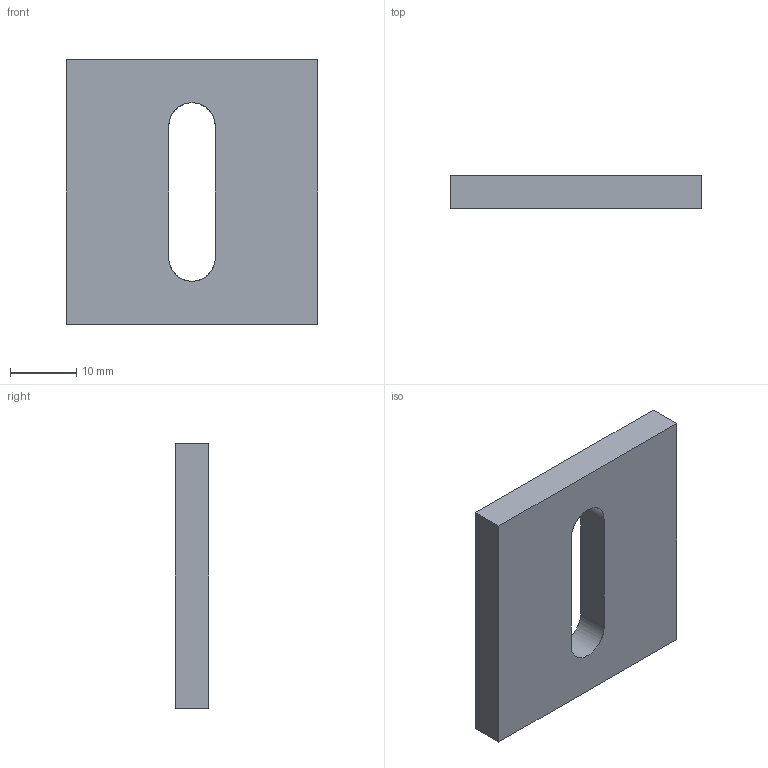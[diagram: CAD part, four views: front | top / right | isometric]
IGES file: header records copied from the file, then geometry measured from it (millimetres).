
Start section: C
Global section: file name: 10_PMT_mount_part2.igs; native system: By Siemens PLM Incorporated; preprocessor: XPlus GENERIC/IGES 22.0.50; author: Author; organization: Title; date: 20200712.163740; units: millimetre
Bounding box: 38 x 5 x 40 mm (x, y, z)
Surface area: 3909.4 mm2 (no closed solid volume)
Topology: 0 solids, 0 shells, 19 faces, 100 edges, 98 vertices
Faces by surface type: bspline 19
